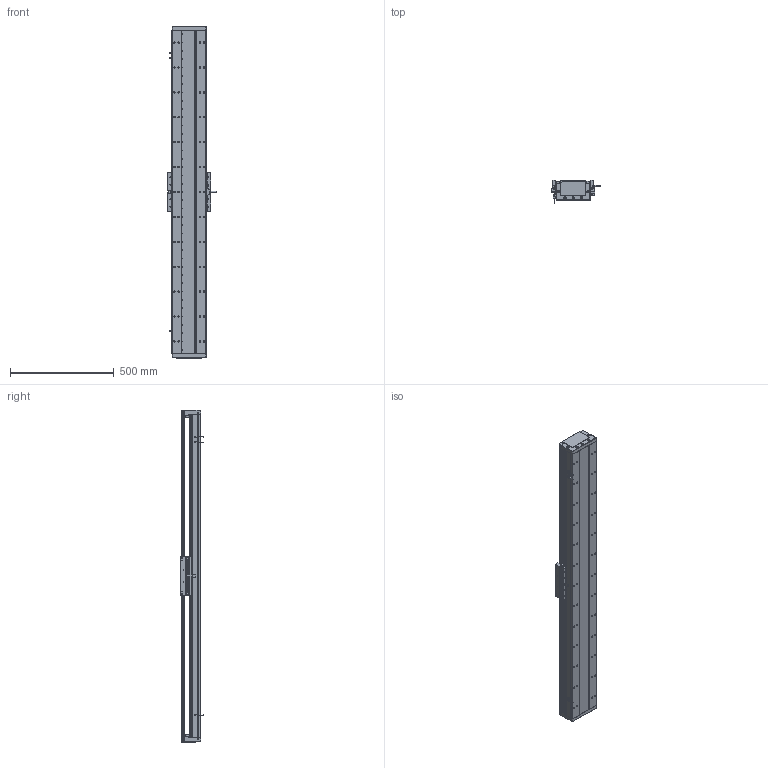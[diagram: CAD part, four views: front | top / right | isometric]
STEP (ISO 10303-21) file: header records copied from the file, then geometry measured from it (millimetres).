
FILE_DESCRIPTION (( 'STEP AP203' ), '1' );
FILE_NAME ('DA-C165-C2-T1320-C010-0.2 直线电机.STEP', '2023-05-11T07:36:13', ( '微软用户' ), ( '微软中国' ), 'SwSTEP 2.0', 'SolidWorks 2019', '' );
FILE_SCHEMA (( 'CONFIG_CONTROL_DESIGN' ));
Length unit declared in the file: millimetre
Products named in the file (15): IU-CU165-L 菁釱絳寢; DA-C165-C2-T1320-C010-0.2 眻盄萇儂; 复件 六角薄螺母 M3^DA-C165-C2-T-C010-0.2-N 直线电机_GB_FASTENER_NUT_STNAB M3-C; IU-CU165-L-00 菁釱_L1560; 复件 DA165-GYP-00 光电感应片^DA-C165-C2-T-C010-0.2-N 直线电机; 葩璃 CKM01-W075-TRL^DA-C165-C2-T-C010-0.2-N 眻盄萇儂; 复件 DMA-010-0.2 读数头^DA-C165-C2-T-C010-0.2-N 直线电机; 复件 XD-U-02L 磁栅尺^DA-C165-C2-T-C010-0.2-N 直线电机_T; 珨极趙賑雄怢啣wf-C2; 复件 DA95-HXJ-00 缓冲橡胶^DA-C165-C2-T-C010-0.2-N 直线电机; 葩璃 DA95-GT-T-00^IU-CU165-L 菁釱絳寢_T; 葩璃 PM-T45^DA-C165-C2-T-C010-0.2-N 眻盄萇儂; 复件 CKM02-W075-C1C2-TP-3.0 一体电机-C2^DA-C165-C2-T-C010-0.2-N 直线电机; 复件 DA165-T-002-00 盖板^DA-C165-C2-T-C010-0.2-N 直线电机_0840-002-00; 复件 DA165-DG-H-N-00 端盖^DA-C165-C2-T-C010-0.2-N 直线电机
Assembly tree (28 placements, depth 3):
  DA-C165-C2-T1320-C010-0.2 眻盄萇儂
    IU-CU165-L 菁釱絳寢
      IU-CU165-L-00 菁釱_L1560
      葩璃 DA95-GT-T-00^IU-CU165-L 菁釱絳寢_T  x4
    复件 DA165-DG-H-N-00 端盖^DA-C165-C2-T-C010-0.2-N 直线电机  x2
    复件 DA95-HXJ-00 缓冲橡胶^DA-C165-C2-T-C010-0.2-N 直线电机  x4
    复件 DA165-T-002-00 盖板^DA-C165-C2-T-C010-0.2-N 直线电机_0840-002-00
    复件 XD-U-02L 磁栅尺^DA-C165-C2-T-C010-0.2-N 直线电机_T
    葩璃 PM-T45^DA-C165-C2-T-C010-0.2-N 眻盄萇儂  x3
    葩璃 CKM01-W075-TRL^DA-C165-C2-T-C010-0.2-N 眻盄萇儂
    复件 DA165-GYP-00 光电感应片^DA-C165-C2-T-C010-0.2-N 直线电机
    复件 DMA-010-0.2 读数头^DA-C165-C2-T-C010-0.2-N 直线电机
    复件 CKM02-W075-C1C2-TP-3.0 一体电机-C2^DA-C165-C2-T-C010-0.2-N 直线电机
    复件 六角薄螺母 M3^DA-C165-C2-T-C010-0.2-N 直线电机_GB_FASTENER_NUT_STNAB M3-C  x6
    珨极趙賑雄怢啣wf-C2
Bounding box: 233 x 111.45 x 1600 mm (x, y, z)
Volume: 10727876.2 mm3; surface area: 3027024 mm2
Topology: 66 solids, 66 shells, 3340 faces, 9418 edges, 5955 vertices
Faces by surface type: cylinder 1799, plane 1077, cone 406, torus 54, sphere 4
Entity records: 105765 total; most frequent: CARTESIAN_POINT 26252, ORIENTED_EDGE 16310, DIRECTION 16260, EDGE_CURVE 8155, AXIS2_PLACEMENT_3D 6143, VERTEX_POINT 5291, LINE 3974, VECTOR 3974
